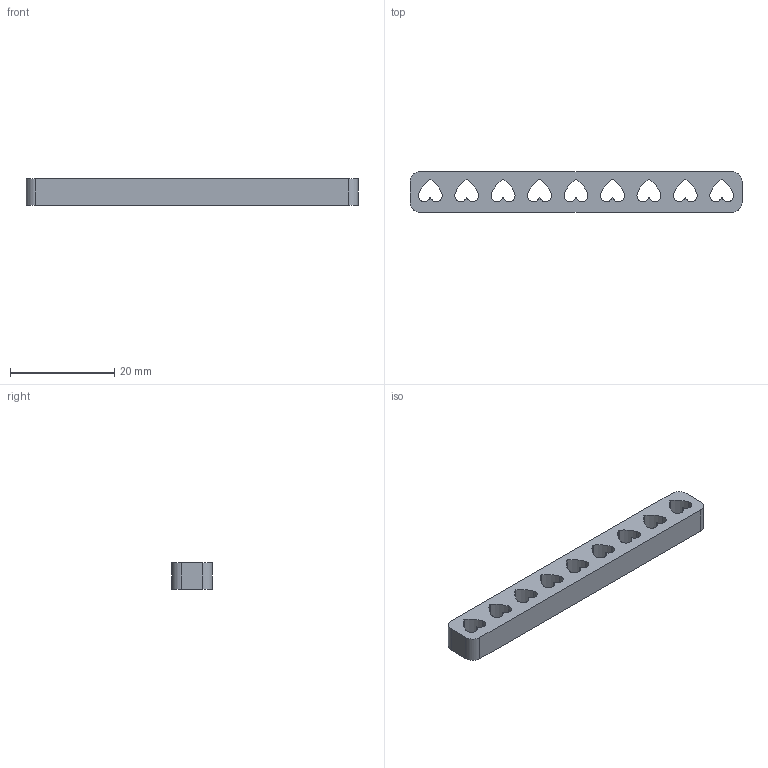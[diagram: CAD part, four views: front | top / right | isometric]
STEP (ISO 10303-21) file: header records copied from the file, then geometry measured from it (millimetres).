
FILE_DESCRIPTION(('CATIA V5 STEP Exchange','CAx-IF Rec.Pracs.--- Model Styling and Organization---1.4--- 2014-01-23'),'2;1');
FILE_NAME('D:\모델\플래그\플래그\일반\05.stp','2026-07-14T16:02:17+00:00',('none'),('none'),'CATIA Version 5-6 Release 2018','CATIA V5 STEP AP214','none');
FILE_SCHEMA(('AUTOMOTIVE_DESIGN { 1 0 10303 214 1 1 1 1 }'));
Length unit declared in the file: millimetre
Products named in the file (1): bulkhead11
Bounding box: 63.78 x 7.8 x 5 mm (x, y, z)
Volume: 1858.4 mm3; surface area: 2107.1 mm2
Topology: 1 solids, 1 shells, 64 faces, 186 edges, 124 vertices
Faces by surface type: cylinder 58, plane 6
Entity records: 2144 total; most frequent: CARTESIAN_POINT 375, ORIENTED_EDGE 372, DIRECTION 314, EDGE_CURVE 186, AXIS2_PLACEMENT_3D 181, VERTEX_POINT 124, CIRCLE 116, EDGE_LOOP 82
